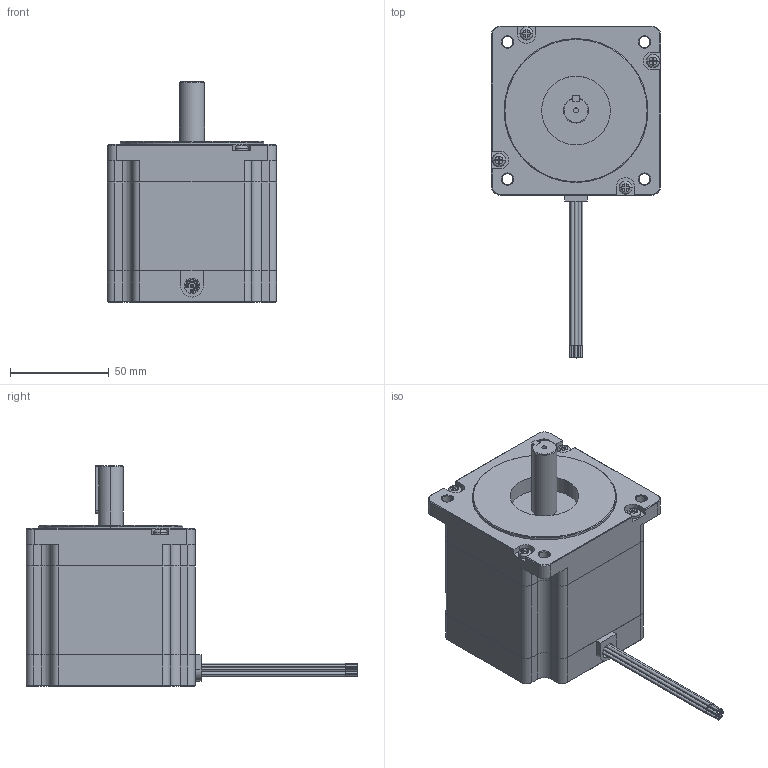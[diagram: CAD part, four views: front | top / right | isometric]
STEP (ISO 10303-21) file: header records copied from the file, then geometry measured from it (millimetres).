
FILE_DESCRIPTION (( 'STEP AP214' ), '1' );
FILE_NAME ('34Y108S-LW8.STEP', '2010-06-09T18:39:43', ( 'Tim Raines' ), ( 'Anaheim Automation' ), 'SwSTEP 2.0', 'SolidWorks 2010', '' );
FILE_SCHEMA (( 'AUTOMOTIVE_DESIGN' ));
Length unit declared in the file: inch
Products named in the file (1): 34Y108S-LW8
Bounding box: 85.85 x 168.4 x 111.76 mm (x, y, z)
Volume: 541989.7 mm3; surface area: 48824.5 mm2
Topology: 1 solids, 1 shells, 366 faces, 921 edges, 584 vertices
Faces by surface type: plane 178, cylinder 125, cone 55, torus 8
Entity records: 15843 total; most frequent: CARTESIAN_POINT 2157, DIRECTION 1905, ORIENTED_EDGE 1826, EDGE_CURVE 913, AXIS2_PLACEMENT_3D 686, VERTEX_POINT 584, VECTOR 533, LINE 533
